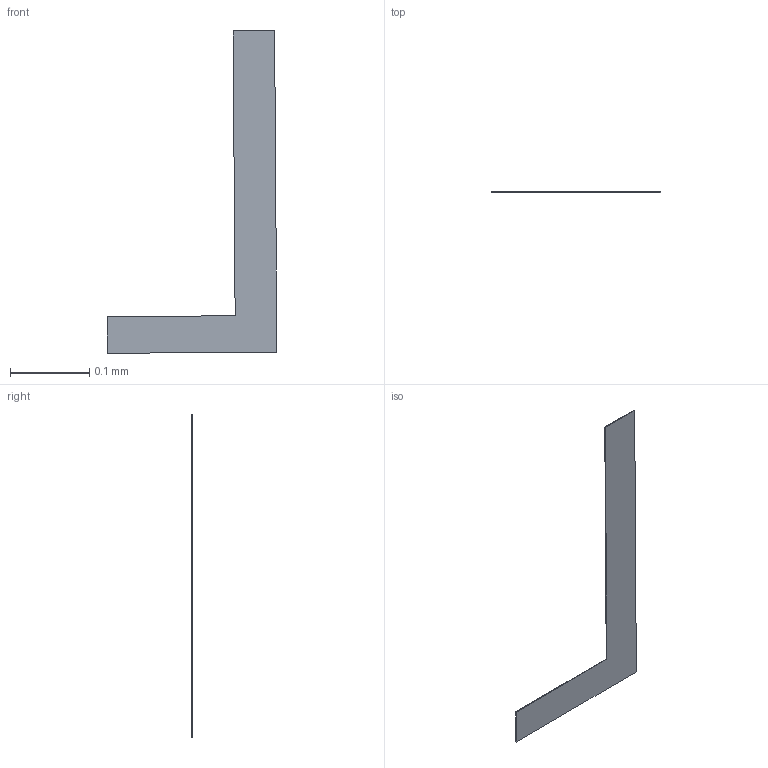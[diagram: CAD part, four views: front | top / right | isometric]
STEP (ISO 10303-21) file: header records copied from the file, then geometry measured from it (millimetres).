
FILE_DESCRIPTION(/* description */ ('STEP AP242 Edition 2','CAx-IF Rec.Pracs.---Representation and Presentation of Product Manufacturing Information (PMI)---4.0---2014-10-13','CAx-IF Rec.Pracs.---3D Tessellated Geometry---0.4---2014-09-14','2;1','CAx-IF Rec.Pracs.---User Defined Attributes---1.5---2016-08-15'),/* implementation_level */ '2;1');
FILE_NAME(/* name */ 'Assembly 1 - SW-TH_EC11E18244A5~SW-TH_EC11E18244A5-L11.7-W12.0-H24.5-P2.5-LS14.5~nxQB (11)',/* time_stamp */ '2026-04-02T09:55:29Z',/* author */ (''),/* organization */ (''),/* preprocessor_version */ 'ST-DEVELOPER v20',/* originating_system */ 'ONSHAPE BY PTC INC, 1.212',/* authorisation */ ' ');
FILE_SCHEMA (('AP242_MANAGED_MODEL_BASED_3D_ENGINEERING_MIM_LF { 1 0 10303 442 3 1 4 }'));
Length unit declared in the file: metre
Products named in the file (1): SW-TH_EC11E18244A5~SW-TH_EC11E18244A5-L11.7-W12.0-H24.5-P2.5-LS14.5~n
xQB
Bounding box: 0.21 x 0 x 0.41 mm (x, y, z)
Volume: 0 mm3; surface area: 0.1 mm2
Topology: 1 solids, 1 shells, 8 faces, 18 edges, 12 vertices
Faces by surface type: plane 8
Entity records: 301 total; most frequent: CARTESIAN_POINT 39, ORIENTED_EDGE 36, DIRECTION 36, EDGE_CURVE 18, LINE 18, VECTOR 18, VERTEX_POINT 12, PRESENTATION_STYLE_ASSIGNMENT 9
